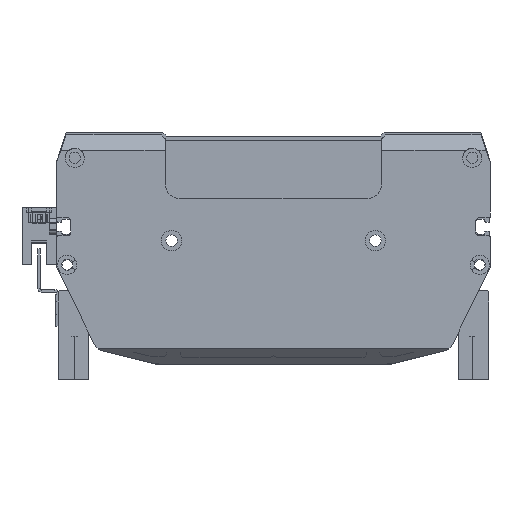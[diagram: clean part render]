
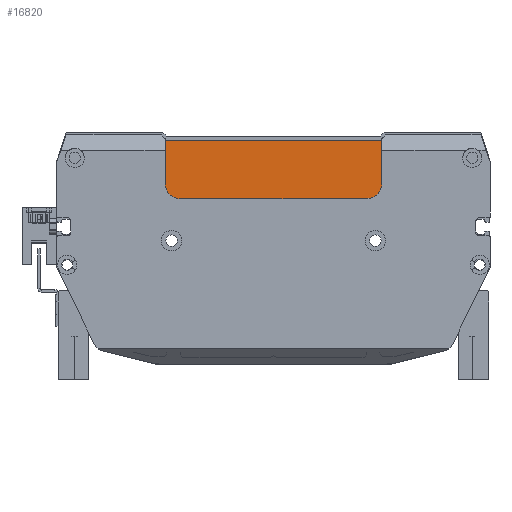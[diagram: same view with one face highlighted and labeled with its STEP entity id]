
A CAD part, front view. The second image highlights one B-rep face of the part: STEP entity #16820.
In plain terms, the highlighted planar face has unit normal (0, -1, 0) as drawn and (0, 0, 1) by its records, which use the part's own axes.
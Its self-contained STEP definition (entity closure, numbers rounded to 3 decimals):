
#278 = VECTOR ( 'NONE', #6113, 1000. ) ;
#865 = CARTESIAN_POINT ( 'NONE',  ( 0., 0., 1.5 ) ) ;
#1578 = VECTOR ( 'NONE', #16971, 1000. ) ;
#2000 = EDGE_CURVE ( 'NONE', #14659, #4083, #14978, .T. ) ;
#2096 = DIRECTION ( 'NONE',  ( -0.707, 0.707, 0. ) ) ;
#2160 = DIRECTION ( 'NONE',  ( 1., 0., 0. ) ) ;
#2233 = AXIS2_PLACEMENT_3D ( 'NONE', #865, #9521, #2575 ) ;
#2444 = EDGE_CURVE ( 'NONE', #11570, #15797, #5563, .T. ) ;
#2575 = DIRECTION ( 'NONE',  ( 1., 0., 0. ) ) ;
#2697 = CARTESIAN_POINT ( 'NONE',  ( 32.185, -28.79, 1.5 ) ) ;
#3941 = EDGE_CURVE ( 'NONE', #14659, #7641, #4263, .T. ) ;
#4083 = VERTEX_POINT ( 'NONE', #8970 ) ;
#4263 = LINE ( 'NONE', #7177, #7418 ) ;
#4702 = ORIENTED_EDGE ( 'NONE', *, *, #3941, .F. ) ;
#4966 = CARTESIAN_POINT ( 'NONE',  ( -46.315, -5.79, 1.5 ) ) ;
#5147 = VERTEX_POINT ( 'NONE', #19127 ) ;
#5196 = DIRECTION ( 'NONE',  ( 0., 1., 0. ) ) ;
#5264 = CARTESIAN_POINT ( 'NONE',  ( -53.815, -30.79, 1.5 ) ) ;
#5505 = VERTEX_POINT ( 'NONE', #9562 ) ;
#5563 = LINE ( 'NONE', #14597, #278 ) ;
#5652 = EDGE_CURVE ( 'NONE', #8962, #5505, #19691, .T. ) ;
#6015 = PLANE ( 'NONE',  #2233 ) ;
#6042 = ORIENTED_EDGE ( 'NONE', *, *, #2000, .T. ) ;
#6113 = DIRECTION ( 'NONE',  ( -1., 0., 0. ) ) ;
#6404 = CIRCLE ( 'NONE', #8136, 6. ) ;
#7177 = CARTESIAN_POINT ( 'NONE',  ( 34.185, -30.79, 1.5 ) ) ;
#7358 = LINE ( 'NONE', #21247, #19413 ) ;
#7418 = VECTOR ( 'NONE', #2096, 1000. ) ;
#7641 = VERTEX_POINT ( 'NONE', #2697 ) ;
#7804 = ORIENTED_EDGE ( 'NONE', *, *, #19720, .T. ) ;
#8136 = AXIS2_PLACEMENT_3D ( 'NONE', #12006, #10546, #17139 ) ;
#8257 = CARTESIAN_POINT ( 'NONE',  ( -52.315, -5.79, 1.5 ) ) ;
#8262 = AXIS2_PLACEMENT_3D ( 'NONE', #15573, #10366, #2160 ) ;
#8962 = VERTEX_POINT ( 'NONE', #20035 ) ;
#8970 = CARTESIAN_POINT ( 'NONE',  ( 32.685, -11.79, 1.5 ) ) ;
#9503 = FACE_OUTER_BOUND ( 'NONE', #13328, .T. ) ;
#9521 = DIRECTION ( 'NONE',  ( 0., 0., 1. ) ) ;
#9562 = CARTESIAN_POINT ( 'NONE',  ( -52.315, -29.29, 1.5 ) ) ;
#9590 = DIRECTION ( 'NONE',  ( 1., 0., 0. ) ) ;
#9921 = DIRECTION ( 'NONE',  ( 0., -1., 0. ) ) ;
#9950 = LINE ( 'NONE', #5264, #1578 ) ;
#10366 = DIRECTION ( 'NONE',  ( 0., 0., 1. ) ) ;
#10448 = EDGE_CURVE ( 'NONE', #4083, #11570, #19564, .T. ) ;
#10546 = DIRECTION ( 'NONE',  ( 0., 0., 1. ) ) ;
#11570 = VERTEX_POINT ( 'NONE', #21287 ) ;
#12006 = CARTESIAN_POINT ( 'NONE',  ( -46.315, -11.79, 1.5 ) ) ;
#12343 = ORIENTED_EDGE ( 'NONE', *, *, #20428, .T. ) ;
#13328 = EDGE_LOOP ( 'NONE', ( #6042, #19654, #17330, #19935, #19617, #12343, #7804, #4702 ) ) ;
#13488 = CARTESIAN_POINT ( 'NONE',  ( 32.685, -5.79, 1.5 ) ) ;
#14597 = CARTESIAN_POINT ( 'NONE',  ( -52.315, -5.79, 1.5 ) ) ;
#14659 = VERTEX_POINT ( 'NONE', #15081 ) ;
#14978 = LINE ( 'NONE', #13488, #19939 ) ;
#15081 = CARTESIAN_POINT ( 'NONE',  ( 32.685, -29.29, 1.5 ) ) ;
#15573 = CARTESIAN_POINT ( 'NONE',  ( 26.685, -11.79, 1.5 ) ) ;
#15797 = VERTEX_POINT ( 'NONE', #4966 ) ;
#16820 = ADVANCED_FACE ( 'NONE', ( #9503 ), #6015, .T. ) ;
#16971 = DIRECTION ( 'NONE',  ( 0.707, 0.707, 0. ) ) ;
#17139 = DIRECTION ( 'NONE',  ( 1., 0., 0. ) ) ;
#17171 = EDGE_CURVE ( 'NONE', #15797, #8962, #6404, .T. ) ;
#17330 = ORIENTED_EDGE ( 'NONE', *, *, #2444, .T. ) ;
#17345 = VECTOR ( 'NONE', #9921, 1000. ) ;
#19127 = CARTESIAN_POINT ( 'NONE',  ( -51.815, -28.79, 1.5 ) ) ;
#19413 = VECTOR ( 'NONE', #9590, 1000. ) ;
#19564 = CIRCLE ( 'NONE', #8262, 6. ) ;
#19617 = ORIENTED_EDGE ( 'NONE', *, *, #5652, .T. ) ;
#19654 = ORIENTED_EDGE ( 'NONE', *, *, #10448, .T. ) ;
#19691 = LINE ( 'NONE', #8257, #17345 ) ;
#19720 = EDGE_CURVE ( 'NONE', #5147, #7641, #7358, .T. ) ;
#19935 = ORIENTED_EDGE ( 'NONE', *, *, #17171, .T. ) ;
#19939 = VECTOR ( 'NONE', #5196, 1000. ) ;
#20035 = CARTESIAN_POINT ( 'NONE',  ( -52.315, -11.79, 1.5 ) ) ;
#20428 = EDGE_CURVE ( 'NONE', #5505, #5147, #9950, .T. ) ;
#21247 = CARTESIAN_POINT ( 'NONE',  ( -51.815, -28.79, 1.5 ) ) ;
#21287 = CARTESIAN_POINT ( 'NONE',  ( 26.685, -5.79, 1.5 ) ) ;
